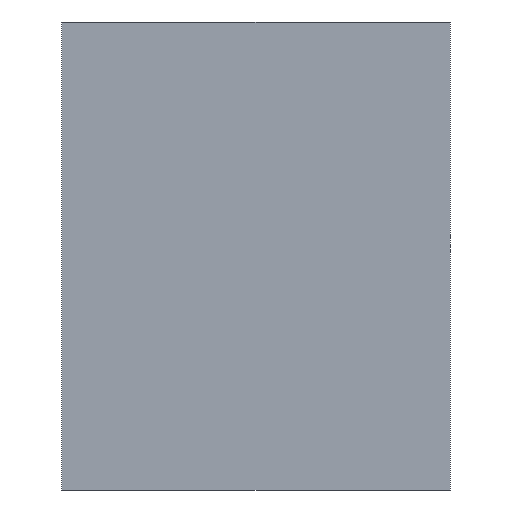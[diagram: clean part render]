
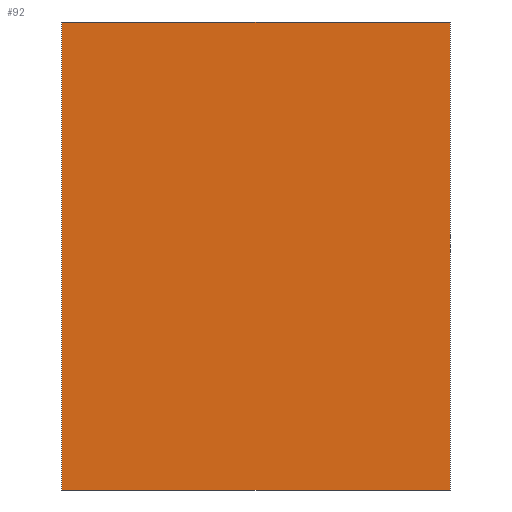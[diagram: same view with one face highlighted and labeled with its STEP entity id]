
A CAD part, top view. The second image highlights one B-rep face of the part: STEP entity #92.
In plain terms, the highlighted planar face has unit normal (0, 0, 1).
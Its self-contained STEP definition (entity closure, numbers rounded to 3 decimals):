
#53=CARTESIAN_POINT('Axis2P3D Location',(0.,0.,0.)) ;
#58=CARTESIAN_POINT('Line Origine',(48.5,0.,0.)) ;
#62=CARTESIAN_POINT('Vertex',(0.,0.,0.)) ;
#64=CARTESIAN_POINT('Vertex',(97.,0.,0.)) ;
#67=CARTESIAN_POINT('Line Origine',(97.,58.5,0.)) ;
#71=CARTESIAN_POINT('Vertex',(97.,117.,0.)) ;
#74=CARTESIAN_POINT('Line Origine',(48.5,117.,0.)) ;
#78=CARTESIAN_POINT('Vertex',(0.,117.,0.)) ;
#81=CARTESIAN_POINT('Line Origine',(0.,58.5,0.)) ;
#54=DIRECTION('Axis2P3D Direction',(0.,0.,1.)) ;
#55=DIRECTION('Axis2P3D XDirection',(1.,0.,0.)) ;
#59=DIRECTION('Vector Direction',(1.,0.,0.)) ;
#68=DIRECTION('Vector Direction',(0.,1.,0.)) ;
#75=DIRECTION('Vector Direction',(-1.,0.,0.)) ;
#82=DIRECTION('Vector Direction',(0.,-1.,0.)) ;
#56=AXIS2_PLACEMENT_3D('Plane Axis2P3D',#53,#54,#55) ;
#87=ORIENTED_EDGE('',*,*,#66,.T.) ;
#88=ORIENTED_EDGE('',*,*,#73,.T.) ;
#89=ORIENTED_EDGE('',*,*,#80,.T.) ;
#90=ORIENTED_EDGE('',*,*,#85,.T.) ;
#60=VECTOR('Line Direction',#59,1.) ;
#69=VECTOR('Line Direction',#68,1.) ;
#76=VECTOR('Line Direction',#75,1.) ;
#83=VECTOR('Line Direction',#82,1.) ;
#92=ADVANCED_FACE('Fill.1',(#91),#57,.T.) ;
#66=EDGE_CURVE('',#63,#65,#61,.T.) ;
#73=EDGE_CURVE('',#65,#72,#70,.T.) ;
#80=EDGE_CURVE('',#72,#79,#77,.T.) ;
#85=EDGE_CURVE('',#79,#63,#84,.T.) ;
#86=EDGE_LOOP('',(#87,#88,#89,#90)) ;
#91=FACE_OUTER_BOUND('',#86,.T.) ;
#61=LINE('Line',#58,#60) ;
#70=LINE('Line',#67,#69) ;
#77=LINE('Line',#74,#76) ;
#84=LINE('Line',#81,#83) ;
#57=PLANE('',#56) ;
#63=VERTEX_POINT('',#62) ;
#65=VERTEX_POINT('',#64) ;
#72=VERTEX_POINT('',#71) ;
#79=VERTEX_POINT('',#78) ;
